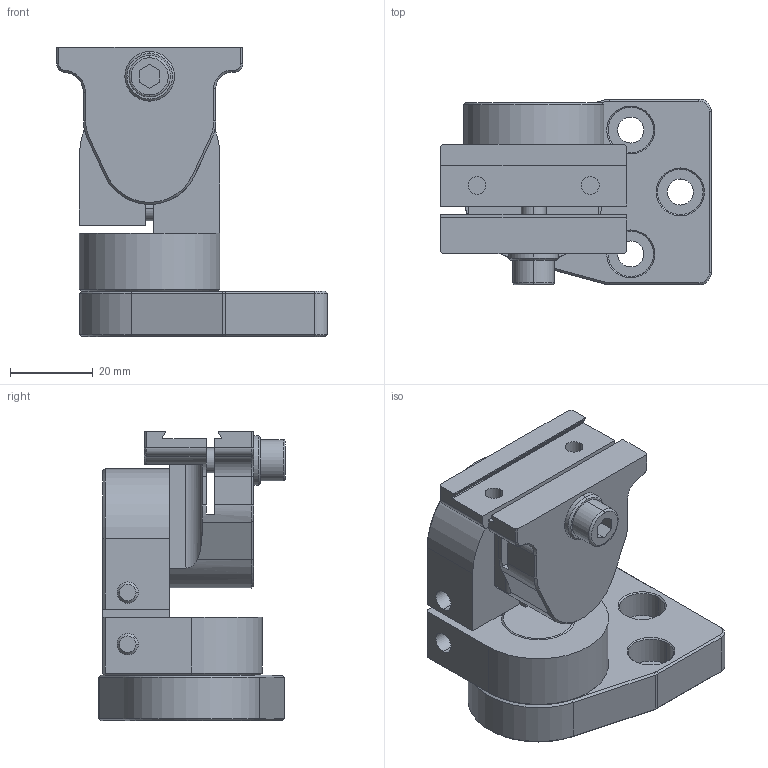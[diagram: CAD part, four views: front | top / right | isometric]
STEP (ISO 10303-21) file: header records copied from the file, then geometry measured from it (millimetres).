
FILE_DESCRIPTION((''),'2;1');
FILE_NAME('15300913_MG2A.stp','2013-08-12T10:53:23',(''),(''),'Mechanical Desktop 2009','Mechanical Desktop 2009',', , ');
FILE_SCHEMA(('CONFIG_CONTROL_DESIGN'));
Length unit declared in the file: millimetre
Products named in the file (11): 15300913; 04113237_MONTAGE_GRUNDTEIL_FA45; MONTAGE_GRUNDTEIL; 04113238_MONTAGE_MITTELTEIL_FA45; ~MONTAGE_MITTELTEIL; SCHRAUBE_DIN912_M6X20; ~TEIL1; SCHEIBE_DIN125B_64; TEIL1; 04113239; MONTAGE_OBERTEIL
Assembly tree (12 placements, depth 3):
  15300913
    04113237_MONTAGE_GRUNDTEIL_FA45
      MONTAGE_GRUNDTEIL
    04113238_MONTAGE_MITTELTEIL_FA45
      ~MONTAGE_MITTELTEIL
    SCHRAUBE_DIN912_M6X20  x3
      ~TEIL1
    SCHEIBE_DIN125B_64
      TEIL1
    04113239
      MONTAGE_OBERTEIL
Bounding box: 65.5 x 45.1 x 70 mm (x, y, z)
Volume: 75968.4 mm3; surface area: 29010.2 mm2
Topology: 7 solids, 7 shells, 271 faces, 646 edges, 404 vertices
Faces by surface type: plane 124, cylinder 83, cone 50, bspline 8, torus 6
Entity records: 7149 total; most frequent: CARTESIAN_POINT 1302, DIRECTION 1250, ORIENTED_EDGE 1124, EDGE_CURVE 562, AXIS2_PLACEMENT_3D 458, VERTEX_POINT 352, VECTOR 334, LINE 334
